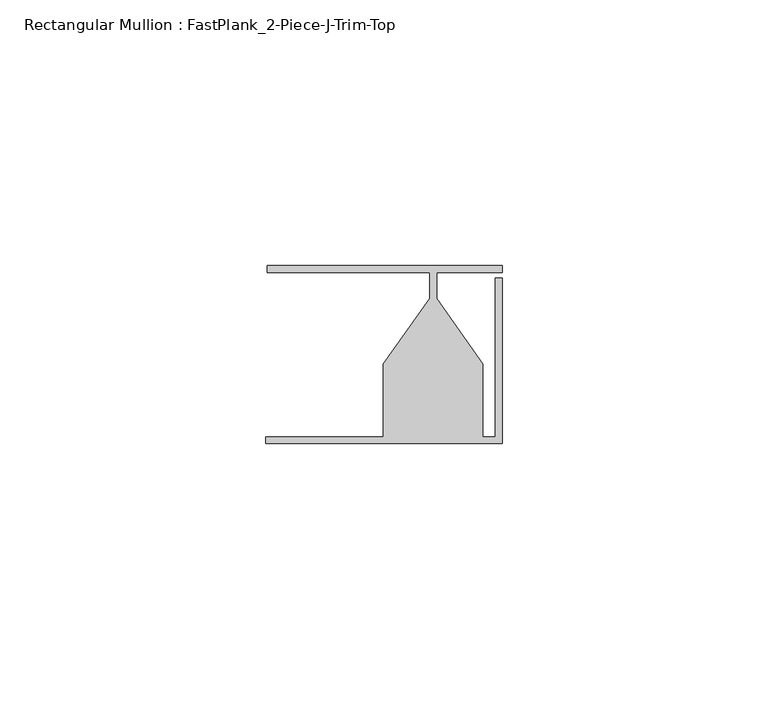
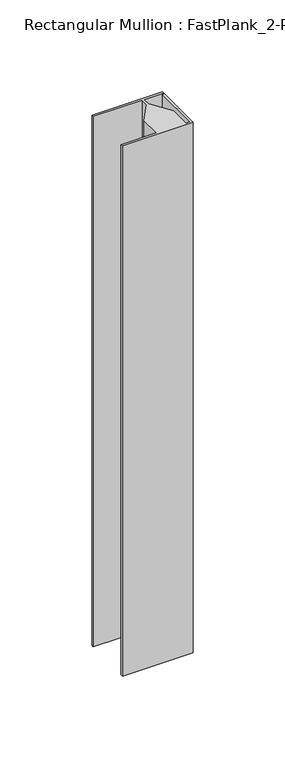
"""IFC4 building model written with IfcOpenShell, lengths in millimetres: member geometry, Rectangular Mullion : FastPlank_2-Piece-J-Trim-Top."""

from ifc_helpers import new_model, si_unit, frame, origin, place, context, project, spatial, polyline, outline, extrude, source, transform, mapped, element, save


def rectangular_mullion_fastplank_2_piece_j_trim_top_f65f7e6d(model_context):
    return source(origin(), model_context, "Body", "SweptSolid", [
        extrude(outline(polyline([(0.0, 11.8625052), (0.0, 10.5618154), (-12.3176464, 10.5618154), (-12.3176464, 5.7038113), (-3.6053348, -6.6543757), (-3.6053348, -20.3381228), (-1.2999974, -20.3381228), (-1.2999974, 9.5619969), (0.0, 9.5619969), (0.0, -21.6381202), (-44.4475015, -21.6381202), (-44.4475015, -20.3381228), (-22.3299553, -20.3381228), (-22.3299553, -6.6543757), (-13.6176438, 5.7038113), (-13.6176438, 10.5618154), (-44.2023711, 10.5618154), (-44.2023711, 11.8625052), (0.0, 11.8625052)])), frame((0.0, 0.0, -352.4435883), z_axis=(0.0, 0.0, 1.0), x_axis=(1.0, 0.0, 0.0)), (0.0, 0.0, 1.0), 352.4435883),
    ])


if __name__ == "__main__":
    model = new_model("IFC4")
    model_context = context("Model", 3, world=origin())
    ifc_project = project(units=[si_unit("LENGTHUNIT", "METRE", prefix="MILLI")], contexts=[model_context])
    site = spatial("IfcSite", under=ifc_project)
    building = spatial("IfcBuilding", under=site)
    placement = place(None, origin())
    rectangular_mullion_fastplank_2_piece_j_trim_top_shape = rectangular_mullion_fastplank_2_piece_j_trim_top_f65f7e6d(model_context)
    element("IfcMember", 1, ObjectType="Rectangular Mullion : FastPlank_2-Piece-J-Trim-Top", at=placement, inside=building, context=model_context, shape_type="MappedRepresentation", body=[
        mapped(rectangular_mullion_fastplank_2_piece_j_trim_top_shape, transform((0.0, 0.0, 0.0), x_axis=(1.0, 0.0, 0.0), y_axis=(0.0, 1.0, 0.0), z_axis=(0.0, 0.0, 1.0))),
    ])
    save(model, "model.ifc")
